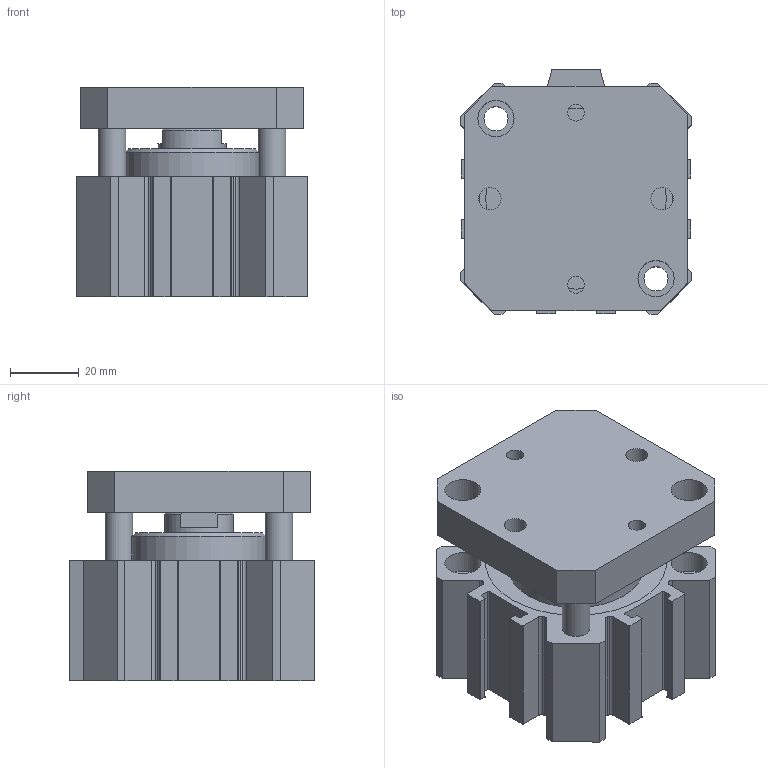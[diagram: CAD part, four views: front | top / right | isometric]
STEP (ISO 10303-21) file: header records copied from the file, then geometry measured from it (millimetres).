
FILE_DESCRIPTION(/* description */ (''),/* implementation_level */ '2;1');
FILE_NAME(/* name */ 'I:\Area Tecnica\Disegni\VARIE-3D\Componenti\1500\Ø50\15##_50_####_#\1501_50_0000_AR.stp',/* time_stamp */ '2016-08-24T12:18:59+02:00',/* author */ ('Maniean1'),/* organization */ ('Pneumax S.p.A.'),/* preprocessor_version */ 'ST-DEVELOPER v15.2',/* originating_system */ 'Autodesk Inventor 2014',/* authorisation */ '');
FILE_SCHEMA (('AUTOMOTIVE_DESIGN { 1 0 10303 214 3 1 1 }'));
Length unit declared in the file: millimetre
Products named in the file (3): C_1501_50_0000_AR; S_1501_50_0000_AR; 1501_50_0000_AR
Bounding box: 67 x 71 x 61 mm (x, y, z)
Volume: 176871.9 mm3; surface area: 54573.2 mm2
Topology: 2 solids, 2 shells, 185 faces, 481 edges, 322 vertices
Faces by surface type: plane 94, cylinder 86, cone 5
Full cylindrical faces by diameter (mm): 4.917 x2, 6.5 x2, 7 x4, 8 x4, 8.566 x2, 10.5 x10, 20 x2, 39 x2, 50 x2, 52.5 x2
Entity records: 5732 total; most frequent: DIRECTION 994, CARTESIAN_POINT 950, ORIENTED_EDGE 876, EDGE_CURVE 438, AXIS2_PLACEMENT_3D 370, VERTEX_POINT 314, EDGE_LOOP 262, LINE 254
